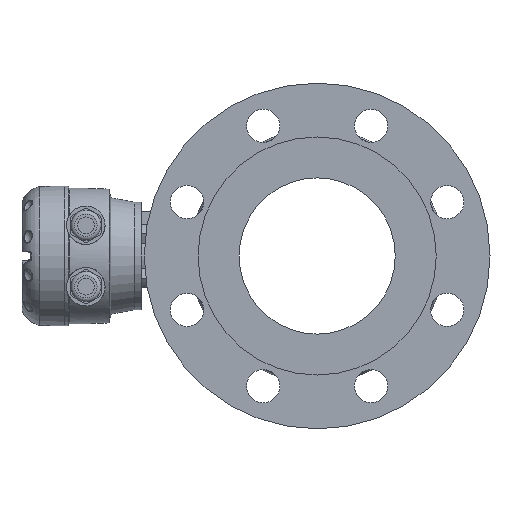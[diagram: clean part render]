
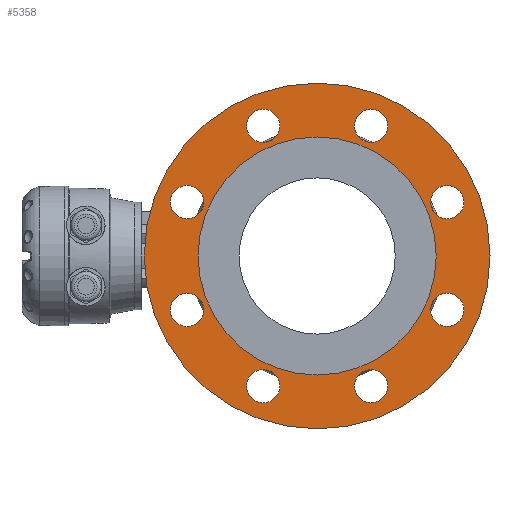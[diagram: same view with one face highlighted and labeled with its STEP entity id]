
A CAD part, left-side view. The second image highlights one B-rep face of the part: STEP entity #5358.
In plain terms, the highlighted planar face has unit normal (-1, 0, 0).
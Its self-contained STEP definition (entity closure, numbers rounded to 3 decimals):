
#43 = EDGE_CURVE ( 'NONE', #10444, #10444, #6451, .T. ) ;
#528 = AXIS2_PLACEMENT_3D ( 'NONE', #14036, #13848, #14123 ) ;
#717 = AXIS2_PLACEMENT_3D ( 'NONE', #11832, #11849, #11850 ) ;
#727 = AXIS2_PLACEMENT_3D ( 'NONE', #11939, #11964, #11965 ) ;
#741 = AXIS2_PLACEMENT_3D ( 'NONE', #12129, #12139, #12140 ) ;
#752 = AXIS2_PLACEMENT_3D ( 'NONE', #12306, #12314, #12315 ) ;
#769 = AXIS2_PLACEMENT_3D ( 'NONE', #8231, #8235, #8236 ) ;
#771 = AXIS2_PLACEMENT_3D ( 'NONE', #8237, #8243, #8244 ) ;
#778 = AXIS2_PLACEMENT_3D ( 'NONE', #8295, #8306, #8307 ) ;
#785 = AXIS2_PLACEMENT_3D ( 'NONE', #8400, #8433, #8434 ) ;
#788 = AXIS2_PLACEMENT_3D ( 'NONE', #8440, #8451, #8452 ) ;
#1111 = EDGE_CURVE ( 'NONE', #10626, #10626, #3893, .T. ) ;
#1153 = EDGE_CURVE ( 'NONE', #10636, #10636, #3955, .T. ) ;
#2745 = ORIENTED_EDGE ( 'NONE', *, *, #4915, .F. ) ;
#2746 = ORIENTED_EDGE ( 'NONE', *, *, #4842, .F. ) ;
#2747 = ORIENTED_EDGE ( 'NONE', *, *, #1111, .F. ) ;
#2748 = ORIENTED_EDGE ( 'NONE', *, *, #4780, .F. ) ;
#2749 = ORIENTED_EDGE ( 'NONE', *, *, #1153, .F. ) ;
#2751 = ORIENTED_EDGE ( 'NONE', *, *, #4839, .F. ) ;
#2752 = ORIENTED_EDGE ( 'NONE', *, *, #4861, .F. ) ;
#2753 = ORIENTED_EDGE ( 'NONE', *, *, #4908, .F. ) ;
#2754 = ORIENTED_EDGE ( 'NONE', *, *, #4731, .F. ) ;
#2755 = ORIENTED_EDGE ( 'NONE', *, *, #43, .T. ) ;
#3501 = FACE_BOUND ( 'NONE', #6039, .T. ) ;
#3502 = FACE_BOUND ( 'NONE', #5520, .T. ) ;
#3506 = FACE_BOUND ( 'NONE', #6040, .T. ) ;
#3507 = FACE_BOUND ( 'NONE', #6035, .T. ) ;
#3508 = FACE_BOUND ( 'NONE', #6043, .T. ) ;
#3509 = FACE_BOUND ( 'NONE', #6038, .T. ) ;
#3510 = FACE_BOUND ( 'NONE', #6042, .T. ) ;
#3511 = FACE_BOUND ( 'NONE', #6037, .T. ) ;
#3512 = FACE_BOUND ( 'NONE', #6041, .T. ) ;
#3513 = FACE_OUTER_BOUND ( 'NONE', #6036, .T. ) ;
#3893 = CIRCLE ( 'NONE', #717, 13. ) ;
#3955 = CIRCLE ( 'NONE', #727, 13. ) ;
#4054 = CIRCLE ( 'NONE', #741, 135. ) ;
#4123 = CIRCLE ( 'NONE', #752, 13. ) ;
#4209 = CIRCLE ( 'NONE', #769, 13. ) ;
#4214 = CIRCLE ( 'NONE', #771, 13. ) ;
#4235 = CIRCLE ( 'NONE', #778, 13. ) ;
#4307 = CIRCLE ( 'NONE', #785, 13. ) ;
#4318 = CIRCLE ( 'NONE', #788, 13. ) ;
#4731 = EDGE_CURVE ( 'NONE', #10650, #10650, #4054, .T. ) ;
#4780 = EDGE_CURVE ( 'NONE', #10656, #10656, #4123, .T. ) ;
#4839 = EDGE_CURVE ( 'NONE', #10664, #10664, #4209, .T. ) ;
#4842 = EDGE_CURVE ( 'NONE', #10666, #10666, #4214, .T. ) ;
#4861 = EDGE_CURVE ( 'NONE', #10670, #10670, #4235, .T. ) ;
#4908 = EDGE_CURVE ( 'NONE', #10674, #10674, #4307, .T. ) ;
#4915 = EDGE_CURVE ( 'NONE', #10676, #10676, #4318, .T. ) ;
#5358 = ADVANCED_FACE ( 'NONE', ( #3502, #3508, #3510, #3512, #3506, #3501, #3509, #3511, #3513, #3507 ), #9917, .T. ) ;
#5520 = EDGE_LOOP ( 'NONE', ( #2745 ) ) ;
#6035 = EDGE_LOOP ( 'NONE', ( #2755 ) ) ;
#6036 = EDGE_LOOP ( 'NONE', ( #2754 ) ) ;
#6037 = EDGE_LOOP ( 'NONE', ( #2753 ) ) ;
#6038 = EDGE_LOOP ( 'NONE', ( #2752 ) ) ;
#6039 = EDGE_LOOP ( 'NONE', ( #2751 ) ) ;
#6040 = EDGE_LOOP ( 'NONE', ( #2749 ) ) ;
#6041 = EDGE_LOOP ( 'NONE', ( #2748 ) ) ;
#6042 = EDGE_LOOP ( 'NONE', ( #2747 ) ) ;
#6043 = EDGE_LOOP ( 'NONE', ( #2746 ) ) ;
#6451 = CIRCLE ( 'NONE', #528, 93. ) ;
#8231 = CARTESIAN_POINT ( 'NONE',  ( -114.805, -173.112, -112.17 ) ) ;
#8235 = DIRECTION ( 'NONE',  ( -1., 0., 0. ) ) ;
#8236 = DIRECTION ( 'NONE',  ( 0., 0., 1. ) ) ;
#8237 = CARTESIAN_POINT ( 'NONE',  ( -114.805, -88.922, 91.084 ) ) ;
#8243 = DIRECTION ( 'NONE',  ( -1., 0., 0. ) ) ;
#8244 = DIRECTION ( 'NONE',  ( 0., 0., 1. ) ) ;
#8295 = CARTESIAN_POINT ( 'NONE',  ( -114.805, -88.922, -112.17 ) ) ;
#8306 = DIRECTION ( 'NONE',  ( -1., 0., 0. ) ) ;
#8307 = DIRECTION ( 'NONE',  ( 0., 0., 1. ) ) ;
#8400 = CARTESIAN_POINT ( 'NONE',  ( -114.805, -29.39, -52.638 ) ) ;
#8433 = DIRECTION ( 'NONE',  ( -1., 0., 0. ) ) ;
#8434 = DIRECTION ( 'NONE',  ( 0., 0., 1. ) ) ;
#8440 = CARTESIAN_POINT ( 'NONE',  ( -114.805, -29.39, 31.552 ) ) ;
#8451 = DIRECTION ( 'NONE',  ( -1., 0., 0. ) ) ;
#8452 = DIRECTION ( 'NONE',  ( 0., 0., 1. ) ) ;
#9917 = PLANE ( 'NONE',  #10767 ) ;
#9924 = CARTESIAN_POINT ( 'NONE',  ( -114.805, -131.017, -10.543 ) ) ;
#9929 = DIRECTION ( 'NONE',  ( -1., 0., 0. ) ) ;
#9930 = DIRECTION ( 'NONE',  ( 0., 0., -1. ) ) ;
#10444 = VERTEX_POINT ( 'NONE', #10451 ) ;
#10451 = CARTESIAN_POINT ( 'NONE',  ( -114.805, -131.017, -103.543 ) ) ;
#10626 = VERTEX_POINT ( 'NONE', #10627 ) ;
#10627 = CARTESIAN_POINT ( 'NONE',  ( -114.805, -173.112, 104.084 ) ) ;
#10636 = VERTEX_POINT ( 'NONE', #10637 ) ;
#10637 = CARTESIAN_POINT ( 'NONE',  ( -114.805, -232.644, -39.638 ) ) ;
#10650 = VERTEX_POINT ( 'NONE', #10651 ) ;
#10651 = CARTESIAN_POINT ( 'NONE',  ( -114.805, -131.017, -145.543 ) ) ;
#10656 = VERTEX_POINT ( 'NONE', #10657 ) ;
#10657 = CARTESIAN_POINT ( 'NONE',  ( -114.805, -232.644, 44.552 ) ) ;
#10664 = VERTEX_POINT ( 'NONE', #10665 ) ;
#10665 = CARTESIAN_POINT ( 'NONE',  ( -114.805, -173.112, -99.17 ) ) ;
#10666 = VERTEX_POINT ( 'NONE', #10667 ) ;
#10667 = CARTESIAN_POINT ( 'NONE',  ( -114.805, -88.922, 104.084 ) ) ;
#10670 = VERTEX_POINT ( 'NONE', #10671 ) ;
#10671 = CARTESIAN_POINT ( 'NONE',  ( -114.805, -88.922, -99.17 ) ) ;
#10674 = VERTEX_POINT ( 'NONE', #10675 ) ;
#10675 = CARTESIAN_POINT ( 'NONE',  ( -114.805, -29.39, -39.638 ) ) ;
#10676 = VERTEX_POINT ( 'NONE', #10677 ) ;
#10677 = CARTESIAN_POINT ( 'NONE',  ( -114.805, -29.39, 44.552 ) ) ;
#10767 = AXIS2_PLACEMENT_3D ( 'NONE', #9924, #9929, #9930 ) ;
#11832 = CARTESIAN_POINT ( 'NONE',  ( -114.805, -173.112, 91.084 ) ) ;
#11849 = DIRECTION ( 'NONE',  ( -1., 0., 0. ) ) ;
#11850 = DIRECTION ( 'NONE',  ( 0., 0., 1. ) ) ;
#11939 = CARTESIAN_POINT ( 'NONE',  ( -114.805, -232.644, -52.638 ) ) ;
#11964 = DIRECTION ( 'NONE',  ( -1., 0., 0. ) ) ;
#11965 = DIRECTION ( 'NONE',  ( 0., 0., 1. ) ) ;
#12129 = CARTESIAN_POINT ( 'NONE',  ( -114.805, -131.017, -10.543 ) ) ;
#12139 = DIRECTION ( 'NONE',  ( 1., 0., 0. ) ) ;
#12140 = DIRECTION ( 'NONE',  ( 0., 0., -1. ) ) ;
#12306 = CARTESIAN_POINT ( 'NONE',  ( -114.805, -232.644, 31.552 ) ) ;
#12314 = DIRECTION ( 'NONE',  ( -1., 0., 0. ) ) ;
#12315 = DIRECTION ( 'NONE',  ( 0., 0., 1. ) ) ;
#13848 = DIRECTION ( 'NONE',  ( 1., 0., 0. ) ) ;
#14036 = CARTESIAN_POINT ( 'NONE',  ( -114.805, -131.017, -10.543 ) ) ;
#14123 = DIRECTION ( 'NONE',  ( 0., 0., -1. ) ) ;
